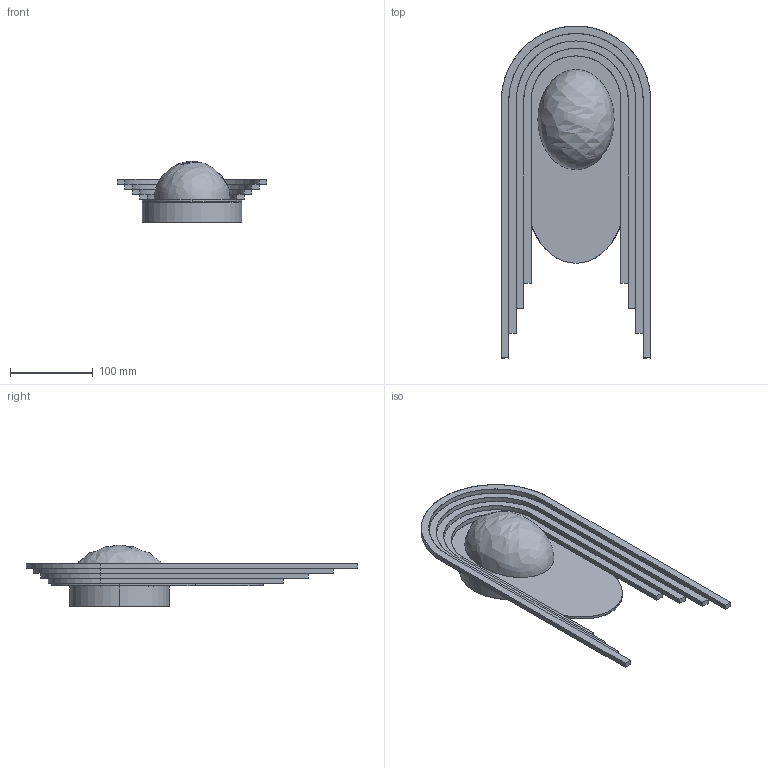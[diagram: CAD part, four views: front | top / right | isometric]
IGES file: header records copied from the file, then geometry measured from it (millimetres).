
Start section: SolidWorks IGES file using analytic representation for surfaces
Global section: file name: F:\燠隴矨\3D\2025-12\Zenith Art Deco Sconce.IGS,15; native system: HSolidWorks 2022; preprocessor: SolidWorks 2022; author: MyPC; date: 251203.105908; units: millimetre
Bounding box: 180 x 400.03 x 73.87 mm (x, y, z)
Surface area: 211554 mm2 (no closed solid volume)
Topology: 0 solids, 0 shells, 57 faces, 1184 edges, 1182 vertices
Faces by surface type: bspline 45, revolution 12
